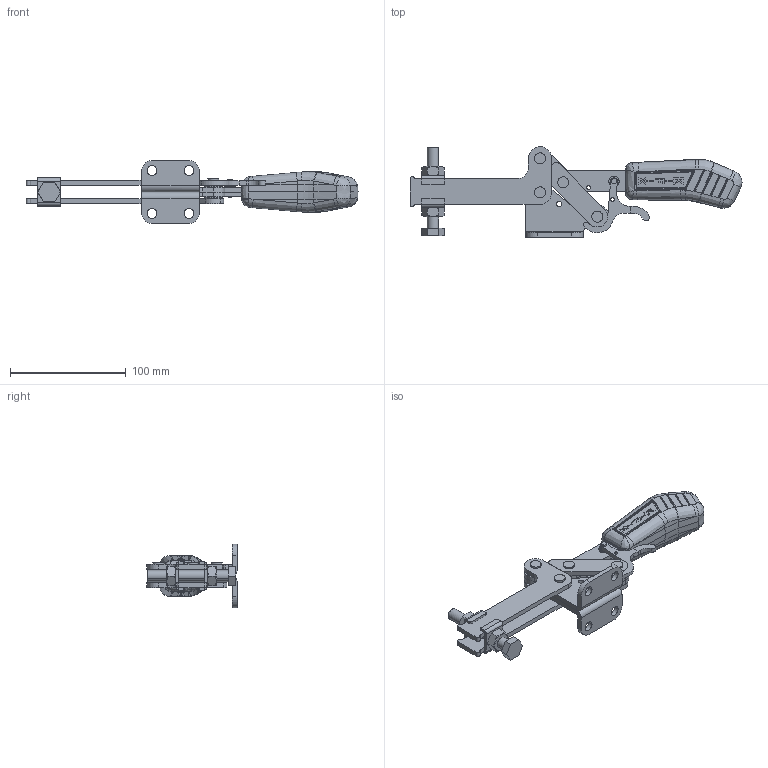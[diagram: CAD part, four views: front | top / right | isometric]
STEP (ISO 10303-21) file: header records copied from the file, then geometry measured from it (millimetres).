
FILE_DESCRIPTION (( 'STEP AP203' ), '1' );
FILE_NAME ('KF-531 DL TR.STEP', '2014-08-18T14:40:00', ( 'Ricardo' ), ( '' ), 'SwSTEP 2.0', 'SolidWorks 2013', '' );
FILE_SCHEMA (( 'CONFIG_CONTROL_DESIGN' ));
Length unit declared in the file: millimetre
Products named in the file (15): 14.10003; 02.12035_Esquerda; 02.12035_Direita; 12.50021; 11.50003; 17.50002; 01.10135; 18.10020; 03.13050; 17.50013; 08.10008; 3670000096; 06.50026; KF-531 DL TR; 07.60002
Assembly tree (30 placements, depth 2):
  KF-531 DL TR
    02.12035_Direita
    02.12035_Esquerda
    01.10135  x2
    03.13050  x2
    08.10008  x2
    06.50026  x4
    07.60002
    14.10003  x2
    12.50021
    11.50003  x2
    17.50002  x8
    18.10020
    17.50013  x2
    3670000096
Bounding box: 287.19 x 78.19 x 55 mm (x, y, z)
Volume: 189172.1 mm3; surface area: 84832 mm2
Topology: 30 solids, 30 shells, 874 faces, 2127 edges, 1323 vertices
Faces by surface type: plane 289, cylinder 263, bspline 159, cone 108, sphere 52, torus 3
Entity records: 25131 total; most frequent: CARTESIAN_POINT 9108, ORIENTED_EDGE 3160, DIRECTION 2557, EDGE_CURVE 1580, VERTEX_POINT 998, AXIS2_PLACEMENT_3D 980, EDGE_LOOP 708, ADVANCED_FACE 634
